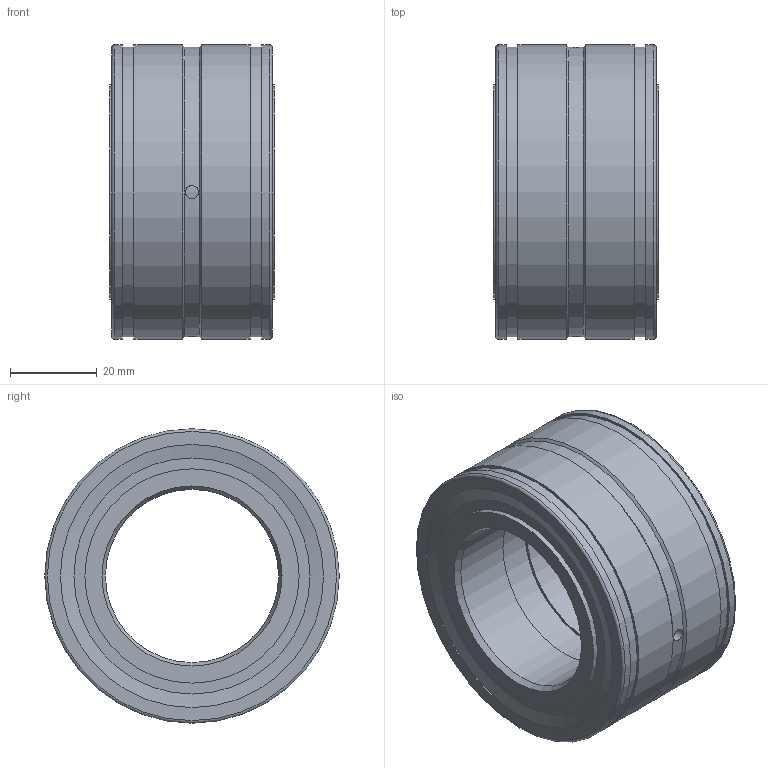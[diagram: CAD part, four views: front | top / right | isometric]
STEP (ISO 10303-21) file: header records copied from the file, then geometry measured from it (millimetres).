
FILE_DESCRIPTION(/* description */ (''),/* implementation_level */ '2;1');
FILE_NAME(/* name */ 'C:\Users\OUREHANEKD\Desktop\Ložiská\MODELY\JRVL\NNF\NNF50\NNF50--\NNF5008-PP.stp',/* time_stamp */ '2016-09-12T11:54:42+02:00',/* author */ ('OUREHANEKD'),/* organization */ (''),/* preprocessor_version */ 'ST-DEVELOPER v15.6',/* originating_system */ 'Autodesk Inventor 2015',/* authorisation */ '');
FILE_SCHEMA (('AUTOMOTIVE_DESIGN { 1 0 10303 214 3 1 1 }'));
Length unit declared in the file: millimetre
Products named in the file (5): NNF5008-PP-tes; NNF5008-PP-02; NNF5008-PP-01; NNF5008-PP-roller; NNF5008-PP
Assembly tree (25 placements, depth 2):
  NNF5008-PP
    NNF5008-PP-tes
    NNF5008-PP-02
    NNF5008-PP-01
    NNF5008-PP-roller  x22
Bounding box: 38 x 68 x 68 mm (x, y, z)
Volume: 66591.2 mm3; surface area: 47151.3 mm2
Topology: 48 solids, 48 shells, 283 faces, 419 edges, 246 vertices
Faces by surface type: plane 112, torus 90, cylinder 73, cone 8
Full cylindrical faces by diameter (mm): 3 x3, 6.8 x44, 40 x2, 41.14 x1, 47.2 x2, 47.58 x2, 49.48 x6, 50.696 x1, 58.9 x1, 60.8 x4, 66.86 x3, 68 x4
Entity records: 1966 total; most frequent: CARTESIAN_POINT 449, DIRECTION 342, AXIS2_PLACEMENT_3D 171, EDGE_LOOP 148, ORIENTED_EDGE 148, FACE_BOUND 75, VERTEX_POINT 74, EDGE_CURVE 74
